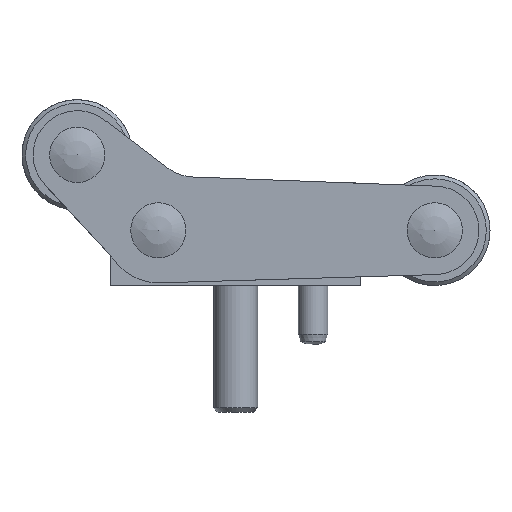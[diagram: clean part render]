
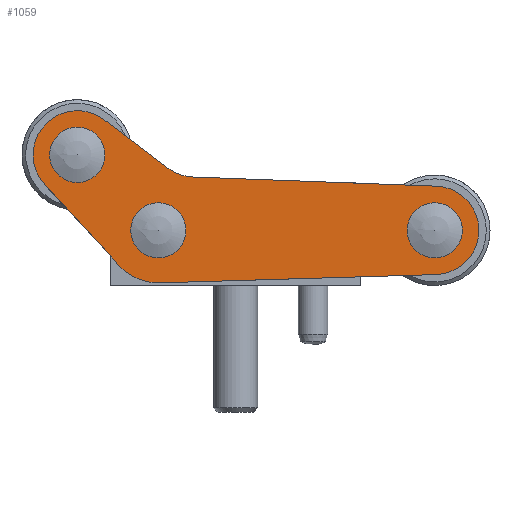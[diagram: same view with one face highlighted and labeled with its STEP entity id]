
A CAD part, left-side view. The second image highlights one B-rep face of the part: STEP entity #1059.
In plain terms, the highlighted planar face has unit normal (-1, 0, 0).
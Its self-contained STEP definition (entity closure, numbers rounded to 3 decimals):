
#55=LINE('',#1674,#129);
#60=LINE('',#1688,#134);
#65=LINE('',#1702,#139);
#70=LINE('',#1716,#144);
#129=VECTOR('',#1326,1000.);
#134=VECTOR('',#1339,1000.);
#139=VECTOR('',#1352,1000.);
#144=VECTOR('',#1365,1000.);
#197=PLANE('',#1170);
#314=ORIENTED_EDGE('',*,*,#547,.F.);
#315=ORIENTED_EDGE('',*,*,#548,.F.);
#316=ORIENTED_EDGE('',*,*,#546,.T.);
#317=ORIENTED_EDGE('',*,*,#517,.F.);
#318=ORIENTED_EDGE('',*,*,#542,.F.);
#319=ORIENTED_EDGE('',*,*,#538,.F.);
#320=ORIENTED_EDGE('',*,*,#535,.F.);
#321=ORIENTED_EDGE('',*,*,#531,.F.);
#322=ORIENTED_EDGE('',*,*,#528,.T.);
#323=ORIENTED_EDGE('',*,*,#524,.F.);
#324=ORIENTED_EDGE('',*,*,#521,.F.);
#517=EDGE_CURVE('',#646,#647,#55,.T.);
#521=EDGE_CURVE('',#647,#650,#734,.T.);
#524=EDGE_CURVE('',#650,#652,#60,.T.);
#528=EDGE_CURVE('',#655,#652,#736,.T.);
#531=EDGE_CURVE('',#655,#657,#65,.T.);
#535=EDGE_CURVE('',#657,#660,#738,.T.);
#538=EDGE_CURVE('',#660,#662,#70,.T.);
#542=EDGE_CURVE('',#662,#646,#740,.T.);
#546=EDGE_CURVE('',#665,#665,#744,.T.);
#547=EDGE_CURVE('',#666,#666,#745,.F.);
#548=EDGE_CURVE('',#667,#667,#746,.F.);
#646=VERTEX_POINT('',#1673);
#647=VERTEX_POINT('',#1675);
#650=VERTEX_POINT('',#1683);
#652=VERTEX_POINT('',#1689);
#655=VERTEX_POINT('',#1697);
#657=VERTEX_POINT('',#1703);
#660=VERTEX_POINT('',#1711);
#662=VERTEX_POINT('',#1717);
#665=VERTEX_POINT('',#1732);
#666=VERTEX_POINT('',#1735);
#667=VERTEX_POINT('',#1737);
#734=CIRCLE('',#1150,6.);
#736=CIRCLE('',#1154,6.);
#738=CIRCLE('',#1158,6.);
#740=CIRCLE('',#1162,7.13);
#744=CIRCLE('',#1169,3.75);
#745=CIRCLE('',#1171,3.75);
#746=CIRCLE('',#1172,3.75);
#816=EDGE_LOOP('',(#314));
#817=EDGE_LOOP('',(#315));
#818=EDGE_LOOP('',(#316));
#819=EDGE_LOOP('',(#317,#318,#319,#320,#321,#322,#323,#324));
#930=FACE_BOUND('',#816,.T.);
#931=FACE_BOUND('',#817,.T.);
#932=FACE_BOUND('',#818,.T.);
#933=FACE_BOUND('',#819,.T.);
#1059=ADVANCED_FACE('',(#930,#931,#932,#933),#197,.F.);
#1150=AXIS2_PLACEMENT_3D('',#1682,#1333,#1334);
#1154=AXIS2_PLACEMENT_3D('',#1696,#1346,#1347);
#1158=AXIS2_PLACEMENT_3D('',#1710,#1359,#1360);
#1162=AXIS2_PLACEMENT_3D('',#1723,#1372,#1373);
#1169=AXIS2_PLACEMENT_3D('',#1731,#1386,#1387);
#1170=AXIS2_PLACEMENT_3D('',#1733,#1388,#1389);
#1171=AXIS2_PLACEMENT_3D('',#1734,#1390,#1391);
#1172=AXIS2_PLACEMENT_3D('',#1736,#1392,#1393);
#1326=DIRECTION('',(0.,0.679,0.734));
#1333=DIRECTION('',(1.,0.,0.));
#1334=DIRECTION('',(0.,0.,-1.));
#1339=DIRECTION('',(0.,-0.797,-0.604));
#1346=DIRECTION('',(1.,0.,0.));
#1347=DIRECTION('',(0.,0.,-1.));
#1352=DIRECTION('',(0.,-0.999,-0.038));
#1359=DIRECTION('',(1.,0.,0.));
#1360=DIRECTION('',(0.,0.,-1.));
#1365=DIRECTION('',(0.,1.,-0.03));
#1372=DIRECTION('',(1.,0.,0.));
#1373=DIRECTION('',(0.,0.,-1.));
#1386=DIRECTION('',(1.,0.,0.));
#1387=DIRECTION('',(0.,0.,-1.));
#1388=DIRECTION('',(1.,0.,0.));
#1389=DIRECTION('',(0.,0.,-1.));
#1390=DIRECTION('',(1.,0.,0.));
#1391=DIRECTION('',(0.,0.,-1.));
#1392=DIRECTION('',(1.,0.,0.));
#1393=DIRECTION('',(0.,0.,-1.));
#1673=CARTESIAN_POINT('',(-11.,5.237,-4.839));
#1674=CARTESIAN_POINT('',(-11.,5.237,-4.839));
#1675=CARTESIAN_POINT('',(-11.,15.407,6.168));
#1682=CARTESIAN_POINT('',(-11.,11.,10.24));
#1683=CARTESIAN_POINT('',(-11.,7.376,15.022));
#1688=CARTESIAN_POINT('',(-11.,7.376,15.022));
#1689=CARTESIAN_POINT('',(-11.,-1.286,8.458));
#1696=CARTESIAN_POINT('',(-11.,-4.91,13.24));
#1697=CARTESIAN_POINT('',(-11.,-4.684,7.244));
#1702=CARTESIAN_POINT('',(-11.,-4.684,7.244));
#1703=CARTESIAN_POINT('',(-11.,-37.736,5.996));
#1710=CARTESIAN_POINT('',(-11.,-37.51,0.));
#1711=CARTESIAN_POINT('',(-11.,-37.691,-5.997));
#1716=CARTESIAN_POINT('',(-11.,-37.691,-5.997));
#1717=CARTESIAN_POINT('',(-11.,-0.215,-7.127));
#1723=CARTESIAN_POINT('',(-11.,0.,0.));
#1731=CARTESIAN_POINT('',(-11.,0.,0.));
#1732=CARTESIAN_POINT('',(-11.,0.,-3.75));
#1733=CARTESIAN_POINT('',(-11.,3.75,0.));
#1734=CARTESIAN_POINT('',(-11.,-37.51,0.));
#1735=CARTESIAN_POINT('',(-11.,-37.51,-3.75));
#1736=CARTESIAN_POINT('',(-11.,11.,10.24));
#1737=CARTESIAN_POINT('',(-11.,11.,6.49));
